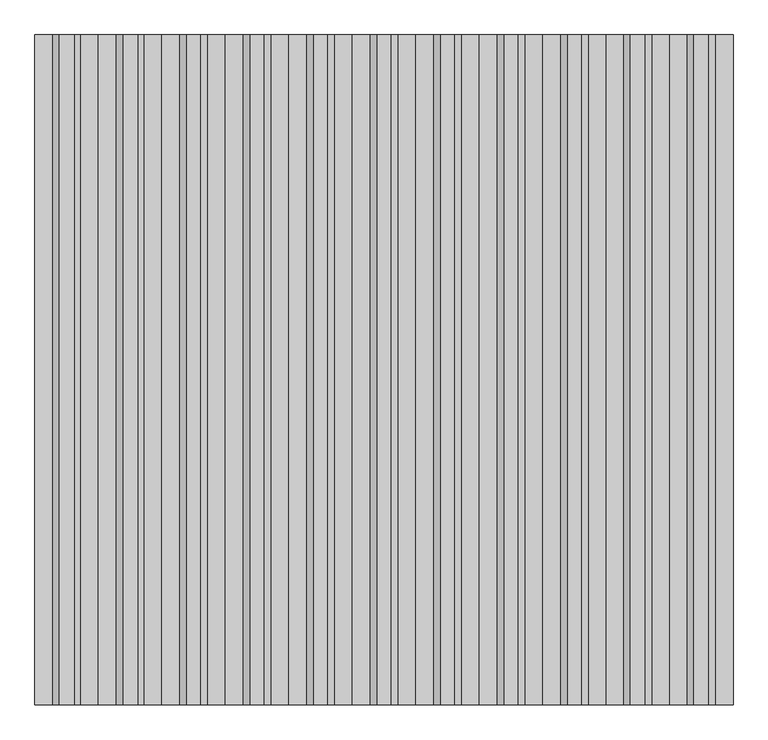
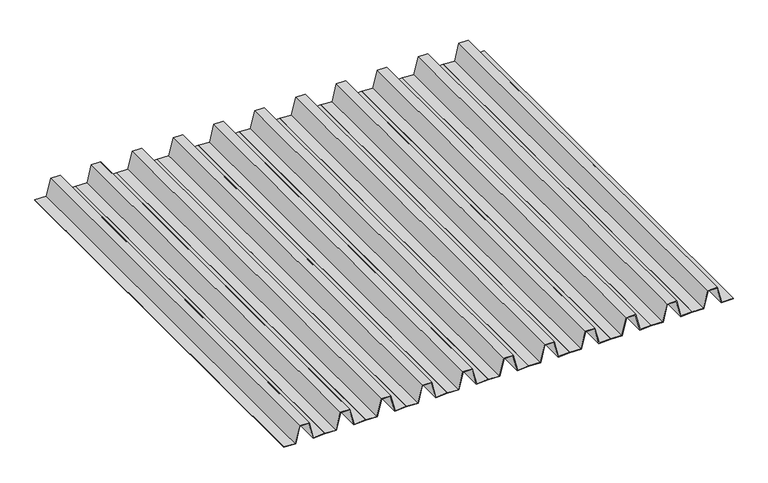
"""IFC4 building model written with IfcOpenShell, lengths in millimetres: proxy geometry, Renson_Amani_Fixed_Roof : Renson_Amani_Fixed_Roof."""

from ifc_helpers import new_model, si_unit, frame, origin, place, context, project, spatial, polyline, outline, extrude, source, transform, mapped, element, save


def generic_models_a0ed1c80(model_context):
    return source(origin(), model_context, "Body", "SweptSolid", [
        extrude(outline(polyline([(2416.1350727, 2500.0), (2413.1322147, 2500.0), (2410.0, 2571.7403502), (2516.0797384, 2598.1893092), (2516.0797384, 2651.8176159), (2410.0, 2678.2596498), (2413.1322147, 2750.0), (2416.1350727, 2750.0), (2413.1040587, 2680.577555), (2519.0797384, 2654.1614661), (2519.0797384, 2595.845459), (2413.1040587, 2569.422445), (2416.1350727, 2500.0)])), frame((0.0, 0.0, 0.0), z_axis=(0.0, 1.0, 0.0), x_axis=(0.0, 0.0, 1.0)), (0.0, 0.0, 1.0), 2640.0),
        extrude(outline(polyline([(2416.1350727, 2250.0), (2413.1322147, 2250.0), (2410.0, 2321.7403502), (2516.0797384, 2348.1893092), (2516.0797384, 2401.8176159), (2410.0, 2428.2596498), (2413.1322147, 2500.0), (2416.1350727, 2500.0), (2413.1040587, 2430.577555), (2519.0797384, 2404.1614661), (2519.0797384, 2345.845459), (2413.1040587, 2319.422445), (2416.1350727, 2250.0)])), frame((0.0, 0.0, 0.0), z_axis=(0.0, 1.0, 0.0), x_axis=(0.0, 0.0, 1.0)), (0.0, 0.0, 1.0), 2640.0),
        extrude(outline(polyline([(2416.1350727, 2000.0), (2413.1322147, 2000.0), (2410.0, 2071.7403502), (2516.0797384, 2098.1893092), (2516.0797384, 2151.8176159), (2410.0, 2178.2596498), (2413.1322147, 2250.0), (2416.1350727, 2250.0), (2413.1040587, 2180.577555), (2519.0797384, 2154.1614661), (2519.0797384, 2095.845459), (2413.1040587, 2069.422445), (2416.1350727, 2000.0)])), frame((0.0, 0.0, 0.0), z_axis=(0.0, 1.0, 0.0), x_axis=(0.0, 0.0, 1.0)), (0.0, 0.0, 1.0), 2640.0),
        extrude(outline(polyline([(2416.1350727, 1750.0), (2413.1322147, 1750.0), (2410.0, 1821.7403502), (2516.0797384, 1848.1893092), (2516.0797384, 1901.8176159), (2410.0, 1928.2596498), (2413.1322147, 2000.0), (2416.1350727, 2000.0), (2413.1040587, 1930.577555), (2519.0797384, 1904.1614661), (2519.0797384, 1845.845459), (2413.1040587, 1819.422445), (2416.1350727, 1750.0)])), frame((0.0, 0.0, 0.0), z_axis=(0.0, 1.0, 0.0), x_axis=(0.0, 0.0, 1.0)), (0.0, 0.0, 1.0), 2640.0),
        extrude(outline(polyline([(2416.1350727, 1500.0), (2413.1322147, 1500.0), (2410.0, 1571.7403502), (2516.0797384, 1598.1893092), (2516.0797384, 1651.8176159), (2410.0, 1678.2596498), (2413.1322147, 1750.0), (2416.1350727, 1750.0), (2413.1040587, 1680.577555), (2519.0797384, 1654.1614661), (2519.0797384, 1595.845459), (2413.1040587, 1569.422445), (2416.1350727, 1500.0)])), frame((0.0, 0.0, 0.0), z_axis=(0.0, 1.0, 0.0), x_axis=(0.0, 0.0, 1.0)), (0.0, 0.0, 1.0), 2640.0),
        extrude(outline(polyline([(2416.1350727, 1250.0), (2413.1322147, 1250.0), (2410.0, 1321.7403502), (2516.0797384, 1348.1893092), (2516.0797384, 1401.8176159), (2410.0, 1428.2596498), (2413.1322147, 1500.0), (2416.1350727, 1500.0), (2413.1040587, 1430.577555), (2519.0797384, 1404.1614661), (2519.0797384, 1345.845459), (2413.1040587, 1319.422445), (2416.1350727, 1250.0)])), frame((0.0, 0.0, 0.0), z_axis=(0.0, 1.0, 0.0), x_axis=(0.0, 0.0, 1.0)), (0.0, 0.0, 1.0), 2640.0),
        extrude(outline(polyline([(2416.1350727, 1000.0), (2413.1322147, 1000.0), (2410.0, 1071.7403502), (2516.0797384, 1098.1893092), (2516.0797384, 1151.8176159), (2410.0, 1178.2596498), (2413.1322147, 1250.0), (2416.1350727, 1250.0), (2413.1040587, 1180.577555), (2519.0797384, 1154.1614661), (2519.0797384, 1095.845459), (2413.1040587, 1069.422445), (2416.1350727, 1000.0)])), frame((0.0, 0.0, 0.0), z_axis=(0.0, 1.0, 0.0), x_axis=(0.0, 0.0, 1.0)), (0.0, 0.0, 1.0), 2640.0),
        extrude(outline(polyline([(2416.1350727, 750.0), (2413.1322147, 750.0), (2410.0, 821.7403502), (2516.0797384, 848.1893092), (2516.0797384, 901.8176159), (2410.0, 928.2596498), (2413.1322147, 1000.0), (2416.1350727, 1000.0), (2413.1040587, 930.577555), (2519.0797384, 904.1614661), (2519.0797384, 845.845459), (2413.1040587, 819.422445), (2416.1350727, 750.0)])), frame((0.0, 0.0, 0.0), z_axis=(0.0, 1.0, 0.0), x_axis=(0.0, 0.0, 1.0)), (0.0, 0.0, 1.0), 2640.0),
        extrude(outline(polyline([(2416.1350727, 500.0), (2413.1322147, 500.0), (2410.0, 571.7403502), (2516.0797384, 598.1893092), (2516.0797384, 651.8176159), (2410.0, 678.2596498), (2413.1322147, 750.0), (2416.1350727, 750.0), (2413.1040587, 680.577555), (2519.0797384, 654.1614661), (2519.0797384, 595.845459), (2413.1040587, 569.422445), (2416.1350727, 500.0)])), frame((0.0, 0.0, 0.0), z_axis=(0.0, 1.0, 0.0), x_axis=(0.0, 0.0, 1.0)), (0.0, 0.0, 1.0), 2640.0),
        extrude(outline(polyline([(2416.1350727, 250.0), (2413.1322147, 250.0), (2410.0, 321.7403502), (2516.0797384, 348.1893092), (2516.0797384, 401.8176159), (2410.0, 428.2596498), (2413.1322147, 500.0), (2416.1350727, 500.0), (2413.1040587, 430.577555), (2519.0797384, 404.1614661), (2519.0797384, 345.845459), (2413.1040587, 319.422445), (2416.1350727, 250.0)])), frame((0.0, 0.0, 0.0), z_axis=(0.0, 1.0, 0.0), x_axis=(0.0, 0.0, 1.0)), (0.0, 0.0, 1.0), 2640.0),
        extrude(outline(polyline([(2416.1350727, 0.0), (2413.1322147, 0.0), (2410.0, 71.7403502), (2516.0797384, 98.1893092), (2516.0797384, 151.8176159), (2410.0, 178.2596498), (2413.1322147, 250.0), (2416.1350727, 250.0), (2413.1040587, 180.577555), (2519.0797384, 154.1614661), (2519.0797384, 95.845459), (2413.1040587, 69.422445), (2416.1350727, 0.0)])), frame((0.0, 0.0, 0.0), z_axis=(0.0, 1.0, 0.0), x_axis=(0.0, 0.0, 1.0)), (0.0, 0.0, 1.0), 2640.0),
    ])


if __name__ == "__main__":
    model = new_model("IFC4")
    model_context = context("Model", 3, world=origin())
    ifc_project = project(units=[si_unit("LENGTHUNIT", "METRE", prefix="MILLI")], contexts=[model_context])
    site = spatial("IfcSite", under=ifc_project)
    building = spatial("IfcBuilding", under=site)
    placement = place(None, origin())
    generic_models_shape = generic_models_a0ed1c80(model_context)
    element("IfcBuildingElementProxy", 1, Name="Renson_Amani_Fixed_Roof : Renson_Amani_Fixed_Roof", ObjectType="Renson_Amani_Fixed_Roof : Renson_Amani_Fixed_Roof", at=placement, inside=building, context=model_context, shape_type="MappedRepresentation", body=[
        mapped(generic_models_shape, transform((0.0, 0.0, 0.0), x_axis=(1.0, 0.0, 0.0), y_axis=(0.0, 1.0, 0.0), z_axis=(0.0, 0.0, 1.0))),
    ])
    save(model, "model.ifc")
